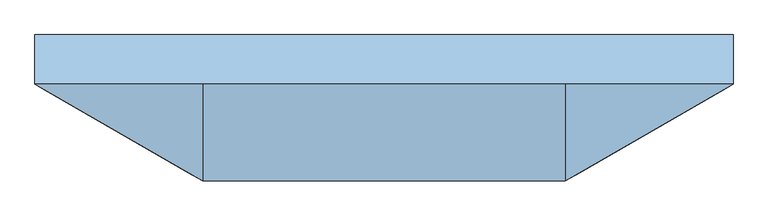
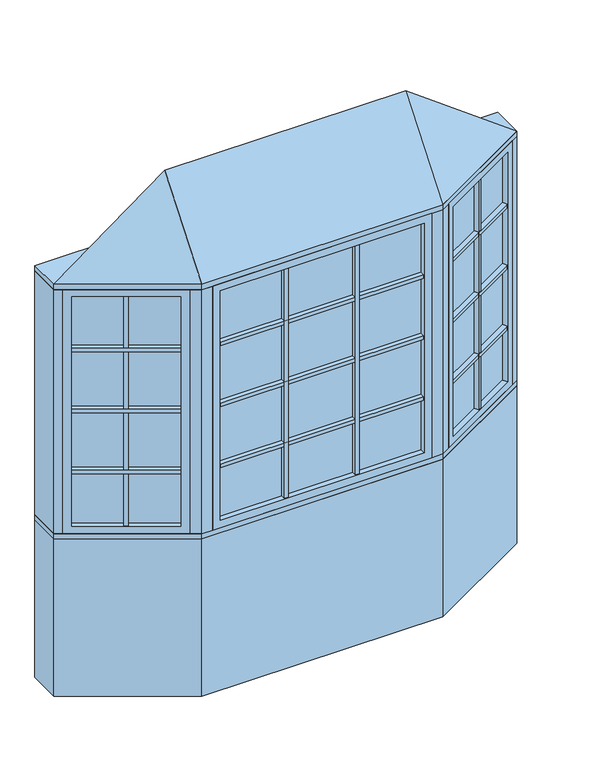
"""IFC4 building model written with IfcOpenShell, lengths in millimetres: window geometry, Pollard_Windows_Tudor Casement Bows and Bays : AML-BAY 30 AFR0612-10-500_GC."""

from ifc_helpers import new_model, si_unit, frame, origin, origin_with_axes, place, context, project, spatial, polyline, outline, extrude, faceted_brep, source, transform, mapped, element, save


def window_10dcae05(model_context):
    return source(origin(), model_context, "Body", "SolidModel", [
        extrude(outline(polyline([(632.2305346, -327.3537343), (621.2305346, -308.3011754), (1002.1135794, -88.3982469), (1013.1135794, -107.4508058), (632.2305346, -327.3537343)])), frame((0.0, 0.0, 1390.998), z_axis=(0.0, 0.0, 1.0), x_axis=(1.0, 0.0, 0.0)), (0.0, 0.0, 1.0), 18.0),
        extrude(outline(polyline([(618.6905346, -303.9017664), (607.6905346, -284.8492075), (988.5735794, -64.946279), (999.5735794, -83.9988379), (618.6905346, -303.9017664)])), frame((0.0, 0.0, 1390.998), z_axis=(0.0, 0.0, 1.0), x_axis=(1.0, 0.0, 0.0)), (0.0, 0.0, 1.0), 18.0),
        extrude(outline(polyline([(632.2305346, -327.3537343), (621.2305346, -308.3011754), (1002.1135794, -88.3982469), (1013.1135794, -107.4508058), (632.2305346, -327.3537343)])), frame((0.0, 0.0, 1090.998), z_axis=(0.0, 0.0, 1.0), x_axis=(1.0, 0.0, 0.0)), (0.0, 0.0, 1.0), 18.0),
        extrude(outline(polyline([(618.6905346, -303.9017664), (607.6905346, -284.8492075), (988.5735794, -64.946279), (999.5735794, -83.9988379), (618.6905346, -303.9017664)])), frame((0.0, 0.0, 1090.998), z_axis=(0.0, 0.0, 1.0), x_axis=(1.0, 0.0, 0.0)), (0.0, 0.0, 1.0), 18.0),
        extrude(outline(polyline([(632.2305346, -327.3537343), (621.2305346, -308.3011754), (1002.1135794, -88.3982469), (1013.1135794, -107.4508058), (632.2305346, -327.3537343)])), frame((0.0, 0.0, 1390.998), z_axis=(0.0, 0.0, 1.0), x_axis=(1.0, 0.0, 0.0)), (0.0, 0.0, 1.0), 18.0),
        extrude(outline(polyline([(618.6905346, -303.9017664), (607.6905346, -284.8492075), (988.5735794, -64.946279), (999.5735794, -83.9988379), (618.6905346, -303.9017664)])), frame((0.0, 0.0, 1390.998), z_axis=(0.0, 0.0, 1.0), x_axis=(1.0, 0.0, 0.0)), (0.0, 0.0, 1.0), 18.0),
        extrude(outline(polyline([(632.2305346, -327.3537343), (621.2305346, -308.3011754), (1002.1135794, -88.3982469), (1013.1135794, -107.4508058), (632.2305346, -327.3537343)])), frame((0.0, 0.0, 1390.998), z_axis=(0.0, 0.0, 1.0), x_axis=(1.0, 0.0, 0.0)), (0.0, 0.0, 1.0), 18.0),
        extrude(outline(polyline([(618.6905346, -303.9017664), (607.6905346, -284.8492075), (988.5735794, -64.946279), (999.5735794, -83.9988379), (618.6905346, -303.9017664)])), frame((0.0, 0.0, 1390.998), z_axis=(0.0, 0.0, 1.0), x_axis=(1.0, 0.0, 0.0)), (0.0, 0.0, 1.0), 18.0),
        extrude(outline(polyline([(632.2305346, -327.3537343), (621.2305346, -308.3011754), (1002.1135794, -88.3982469), (1013.1135794, -107.4508058), (632.2305346, -327.3537343)])), frame((0.0, 0.0, 1690.998), z_axis=(0.0, 0.0, 1.0), x_axis=(1.0, 0.0, 0.0)), (0.0, 0.0, 1.0), 18.0),
        extrude(outline(polyline([(618.6905346, -303.9017664), (607.6905346, -284.8492075), (988.5735794, -64.946279), (999.5735794, -83.9988379), (618.6905346, -303.9017664)])), frame((0.0, 0.0, 1690.998), z_axis=(0.0, 0.0, 1.0), x_axis=(1.0, 0.0, 0.0)), (0.0, 0.0, 1.0), 18.0),
        extrude(outline(polyline([(819.4662856, -193.8497112), (830.4662856, -212.9022701), (814.8778284, -221.9022701), (803.8778284, -202.8497112), (819.4662856, -193.8497112)])), frame((0.0, 0.0, 835.8628), z_axis=(0.0, 0.0, 1.0), x_axis=(1.0, 0.0, 0.0)), (0.0, 0.0, 1.0), 1128.2704),
        extrude(outline(polyline([(816.9262856, -189.4503021), (801.3378284, -198.4503021), (790.3378284, -179.3977432), (805.9262856, -170.3977432), (816.9262856, -189.4503021)])), frame((0.0, 0.0, 835.8628), z_axis=(0.0, 0.0, 1.0), x_axis=(1.0, 0.0, 0.0)), (0.0, 0.0, 1.0), 1128.2704),
        extrude(outline(polyline([(1013.112102, -82.0482469), (610.2320119, -314.6511754), (607.6920119, -310.2517664), (1010.572102, -77.6488379), (1013.112102, -82.0482469)])), frame((0.0, 0.0, 823.1628), z_axis=(0.0, 0.0, 1.0), x_axis=(1.0, 0.0, 0.0)), (0.0, 0.0, 1.0), 1153.6704),
        faceted_brep([(1002.1135794, -88.3982469, 835.8628), (1014.8135794, -110.3952922, 835.8628), (1014.8135794, -110.3952922, 1964.1332), (1002.1135794, -88.3982469, 1964.1332), (1010.572102, -77.6488379, 823.1628), (1013.112102, -82.0482469, 823.1628), (1013.112102, -82.0482469, 1976.8332), (1010.572102, -77.6488379, 1976.8332), (986.8735794, -62.0017926, 835.8628), (999.5735794, -83.9988379, 835.8628), (999.5735794, -83.9988379, 1964.1332), (986.8735794, -62.0017926, 1964.1332), (1045.8734073, -92.4628922, 799.998), (1017.9334073, -44.0693926, 799.998), (1017.9334073, -44.0693926, 1999.998), (1045.8734073, -92.4628922, 1999.998), (633.9305346, -330.2982207, 1964.1332), (621.2305346, -308.3011754, 1964.1332), (610.2320119, -314.6511754, 1976.8332), (607.6920119, -310.2517664, 1976.8332), (618.6905346, -303.9017664, 1964.1332), (605.9905346, -281.9047211, 1964.1332), (574.9307067, -299.8371211, 1999.998), (602.8707067, -348.2306207, 1999.998), (633.9305346, -330.2982207, 835.8628), (621.2305346, -308.3011754, 835.8628), (610.2320119, -314.6511754, 823.1628), (607.6920119, -310.2517664, 823.1628), (618.6905346, -303.9017664, 835.8628), (605.9905346, -281.9047211, 835.8628), (574.9307067, -299.8371211, 799.998), (602.8707067, -348.2306207, 799.998)], [[[0, 1, 2, 3]], [[4, 5, 6, 7]], [[8, 9, 10, 11]], [[12, 13, 14, 15]], [[3, 2, 16, 17]], [[7, 6, 18, 19]], [[11, 10, 20, 21]], [[15, 14, 22, 23]], [[17, 16, 24, 25]], [[19, 18, 26, 27]], [[21, 20, 28, 29]], [[23, 22, 30, 31]], [[25, 24, 1, 0]], [[5, 26, 18, 6], [3, 17, 25, 0]], [[27, 26, 5, 4]], [[7, 19, 27, 4], [9, 28, 20, 10]], [[29, 28, 9, 8]], [[13, 30, 22, 14], [11, 21, 29, 8]], [[31, 30, 13, 12]], [[15, 23, 31, 12], [1, 24, 16, 2]]]),
        extrude(outline(polyline([(174.1350122, -347.8306207), (174.1350122, -369.8306207), (156.1350122, -369.8306207), (156.1350122, -347.8306207), (174.1350122, -347.8306207)])), frame((0.0, 0.0, 835.8628), z_axis=(0.0, 0.0, 1.0), x_axis=(1.0, 0.0, 0.0)), (0.0, 0.0, 1.0), 1128.2704),
        extrude(outline(polyline([(174.1350122, -342.7506207), (156.1350122, -342.7506207), (156.1350122, -320.7506207), (174.1350122, -320.7506207), (174.1350122, -342.7506207)])), frame((0.0, 0.0, 835.8628), z_axis=(0.0, 0.0, 1.0), x_axis=(1.0, 0.0, 0.0)), (0.0, 0.0, 1.0), 1128.2704),
        extrude(outline(polyline([(-156.1350122, -347.8306207), (-156.1350122, -369.8306207), (-174.1350122, -369.8306207), (-174.1350122, -347.8306207), (-156.1350122, -347.8306207)])), frame((0.0, 0.0, 835.8628), z_axis=(0.0, 0.0, 1.0), x_axis=(1.0, 0.0, 0.0)), (0.0, 0.0, 1.0), 1128.2704),
        extrude(outline(polyline([(-156.1350122, -342.7506207), (-174.1350122, -342.7506207), (-174.1350122, -320.7506207), (-156.1350122, -320.7506207), (-156.1350122, -342.7506207)])), frame((0.0, 0.0, 835.8628), z_axis=(0.0, 0.0, 1.0), x_axis=(1.0, 0.0, 0.0)), (0.0, 0.0, 1.0), 1128.2704),
        extrude(outline(polyline([(-473.7046365, -369.8306207), (-473.7046365, -347.8306207), (473.7046365, -347.8306207), (473.7046365, -369.8306207), (-473.7046365, -369.8306207)])), frame((0.0, 0.0, 1090.998), z_axis=(0.0, 0.0, 1.0), x_axis=(1.0, 0.0, 0.0)), (0.0, 0.0, 1.0), 18.0),
        extrude(outline(polyline([(-473.7046365, -342.7506207), (-473.7046365, -320.7506207), (473.7046365, -320.7506207), (473.7046365, -342.7506207), (-473.7046365, -342.7506207)])), frame((0.0, 0.0, 1090.998), z_axis=(0.0, 0.0, 1.0), x_axis=(1.0, 0.0, 0.0)), (0.0, 0.0, 1.0), 18.0),
        extrude(outline(polyline([(-473.7046365, -369.8306207), (-473.7046365, -347.8306207), (473.7046365, -347.8306207), (473.7046365, -369.8306207), (-473.7046365, -369.8306207)])), frame((0.0, 0.0, 1390.998), z_axis=(0.0, 0.0, 1.0), x_axis=(1.0, 0.0, 0.0)), (0.0, 0.0, 1.0), 18.0),
        extrude(outline(polyline([(-473.7046365, -342.7506207), (-473.7046365, -320.7506207), (473.7046365, -320.7506207), (473.7046365, -342.7506207), (-473.7046365, -342.7506207)])), frame((0.0, 0.0, 1390.998), z_axis=(0.0, 0.0, 1.0), x_axis=(1.0, 0.0, 0.0)), (0.0, 0.0, 1.0), 18.0),
        extrude(outline(polyline([(-473.7046365, -369.8306207), (-473.7046365, -347.8306207), (473.7046365, -347.8306207), (473.7046365, -369.8306207), (-473.7046365, -369.8306207)])), frame((0.0, 0.0, 1390.998), z_axis=(0.0, 0.0, 1.0), x_axis=(1.0, 0.0, 0.0)), (0.0, 0.0, 1.0), 18.0),
        extrude(outline(polyline([(-473.7046365, -342.7506207), (-473.7046365, -320.7506207), (473.7046365, -320.7506207), (473.7046365, -342.7506207), (-473.7046365, -342.7506207)])), frame((0.0, 0.0, 1390.998), z_axis=(0.0, 0.0, 1.0), x_axis=(1.0, 0.0, 0.0)), (0.0, 0.0, 1.0), 18.0),
        extrude(outline(polyline([(-473.7046365, -369.8306207), (-473.7046365, -347.8306207), (473.7046365, -347.8306207), (473.7046365, -369.8306207), (-473.7046365, -369.8306207)])), frame((0.0, 0.0, 1390.998), z_axis=(0.0, 0.0, 1.0), x_axis=(1.0, 0.0, 0.0)), (0.0, 0.0, 1.0), 18.0),
        extrude(outline(polyline([(-473.7046365, -342.7506207), (-473.7046365, -320.7506207), (473.7046365, -320.7506207), (473.7046365, -342.7506207), (-473.7046365, -342.7506207)])), frame((0.0, 0.0, 1390.998), z_axis=(0.0, 0.0, 1.0), x_axis=(1.0, 0.0, 0.0)), (0.0, 0.0, 1.0), 18.0),
        extrude(outline(polyline([(-1013.1135794, -107.4508058), (-1002.1135794, -88.3982469), (-621.2305346, -308.3011754), (-632.2305346, -327.3537343), (-1013.1135794, -107.4508058)])), frame((0.0, 0.0, 1090.998), z_axis=(0.0, 0.0, 1.0), x_axis=(1.0, 0.0, 0.0)), (0.0, 0.0, 1.0), 18.0),
        extrude(outline(polyline([(-999.5735794, -83.9988379), (-988.5735794, -64.946279), (-607.6905346, -284.8492075), (-618.6905346, -303.9017664), (-999.5735794, -83.9988379)])), frame((0.0, 0.0, 1090.998), z_axis=(0.0, 0.0, 1.0), x_axis=(1.0, 0.0, 0.0)), (0.0, 0.0, 1.0), 18.0),
        extrude(outline(polyline([(-1013.1135794, -107.4508058), (-1002.1135794, -88.3982469), (-621.2305346, -308.3011754), (-632.2305346, -327.3537343), (-1013.1135794, -107.4508058)])), frame((0.0, 0.0, 1390.998), z_axis=(0.0, 0.0, 1.0), x_axis=(1.0, 0.0, 0.0)), (0.0, 0.0, 1.0), 18.0),
        extrude(outline(polyline([(-999.5735794, -83.9988379), (-988.5735794, -64.946279), (-607.6905346, -284.8492075), (-618.6905346, -303.9017664), (-999.5735794, -83.9988379)])), frame((0.0, 0.0, 1390.998), z_axis=(0.0, 0.0, 1.0), x_axis=(1.0, 0.0, 0.0)), (0.0, 0.0, 1.0), 18.0),
        extrude(outline(polyline([(-1013.1135794, -107.4508058), (-1002.1135794, -88.3982469), (-621.2305346, -308.3011754), (-632.2305346, -327.3537343), (-1013.1135794, -107.4508058)])), frame((0.0, 0.0, 1390.998), z_axis=(0.0, 0.0, 1.0), x_axis=(1.0, 0.0, 0.0)), (0.0, 0.0, 1.0), 18.0),
        extrude(outline(polyline([(-999.5735794, -83.9988379), (-988.5735794, -64.946279), (-607.6905346, -284.8492075), (-618.6905346, -303.9017664), (-999.5735794, -83.9988379)])), frame((0.0, 0.0, 1390.998), z_axis=(0.0, 0.0, 1.0), x_axis=(1.0, 0.0, 0.0)), (0.0, 0.0, 1.0), 18.0),
        extrude(outline(polyline([(-1013.1135794, -107.4508058), (-1002.1135794, -88.3982469), (-621.2305346, -308.3011754), (-632.2305346, -327.3537343), (-1013.1135794, -107.4508058)])), frame((0.0, 0.0, 1390.998), z_axis=(0.0, 0.0, 1.0), x_axis=(1.0, 0.0, 0.0)), (0.0, 0.0, 1.0), 18.0),
        extrude(outline(polyline([(-999.5735794, -83.9988379), (-988.5735794, -64.946279), (-607.6905346, -284.8492075), (-618.6905346, -303.9017664), (-999.5735794, -83.9988379)])), frame((0.0, 0.0, 1390.998), z_axis=(0.0, 0.0, 1.0), x_axis=(1.0, 0.0, 0.0)), (0.0, 0.0, 1.0), 18.0),
        extrude(outline(polyline([(-1013.1135794, -107.4508058), (-1002.1135794, -88.3982469), (-621.2305346, -308.3011754), (-632.2305346, -327.3537343), (-1013.1135794, -107.4508058)])), frame((0.0, 0.0, 1690.998), z_axis=(0.0, 0.0, 1.0), x_axis=(1.0, 0.0, 0.0)), (0.0, 0.0, 1.0), 18.0),
        extrude(outline(polyline([(-999.5735794, -83.9988379), (-988.5735794, -64.946279), (-607.6905346, -284.8492075), (-618.6905346, -303.9017664), (-999.5735794, -83.9988379)])), frame((0.0, 0.0, 1690.998), z_axis=(0.0, 0.0, 1.0), x_axis=(1.0, 0.0, 0.0)), (0.0, 0.0, 1.0), 18.0),
        extrude(outline(polyline([(-473.7046365, -369.8306207), (-473.7046365, -347.8306207), (473.7046365, -347.8306207), (473.7046365, -369.8306207), (-473.7046365, -369.8306207)])), frame((0.0, 0.0, 1690.998), z_axis=(0.0, 0.0, 1.0), x_axis=(1.0, 0.0, 0.0)), (0.0, 0.0, 1.0), 18.0),
        extrude(outline(polyline([(-473.7046365, -342.7506207), (-473.7046365, -320.7506207), (473.7046365, -320.7506207), (473.7046365, -342.7506207), (-473.7046365, -342.7506207)])), frame((0.0, 0.0, 1690.998), z_axis=(0.0, 0.0, 1.0), x_axis=(1.0, 0.0, 0.0)), (0.0, 0.0, 1.0), 18.0),
        extrude(outline(polyline([(-803.8778284, -202.8497112), (-814.8778284, -221.9022701), (-830.4662856, -212.9022701), (-819.4662856, -193.8497112), (-803.8778284, -202.8497112)])), frame((0.0, 0.0, 835.8628), z_axis=(0.0, 0.0, 1.0), x_axis=(1.0, 0.0, 0.0)), (0.0, 0.0, 1.0), 1128.2704),
        extrude(outline(polyline([(-801.3378284, -198.4503021), (-816.9262856, -189.4503021), (-805.9262856, -170.3977432), (-790.3378284, -179.3977432), (-801.3378284, -198.4503021)])), frame((0.0, 0.0, 835.8628), z_axis=(0.0, 0.0, 1.0), x_axis=(1.0, 0.0, 0.0)), (0.0, 0.0, 1.0), 1128.2704),
        extrude(outline(polyline([(-610.2320119, -314.6511754), (-1013.112102, -82.0482469), (-1010.572102, -77.6488379), (-607.6920119, -310.2517664), (-610.2320119, -314.6511754)])), frame((0.0, 0.0, 823.1628), z_axis=(0.0, 0.0, 1.0), x_axis=(1.0, 0.0, 0.0)), (0.0, 0.0, 1.0), 1153.6704),
        faceted_brep([(-618.6905346, -303.9017664, 1964.1332), (-605.9905346, -281.9047211, 1964.1332), (-605.9905346, -281.9047211, 835.8628), (-618.6905346, -303.9017664, 835.8628), (-610.2320119, -314.6511754, 1976.8332), (-607.6920119, -310.2517664, 1976.8332), (-607.6920119, -310.2517664, 823.1628), (-610.2320119, -314.6511754, 823.1628), (-633.9305346, -330.2982207, 1964.1332), (-621.2305346, -308.3011754, 1964.1332), (-621.2305346, -308.3011754, 835.8628), (-633.9305346, -330.2982207, 835.8628), (-574.9307067, -299.8371211, 1999.998), (-602.8707067, -348.2306207, 1999.998), (-602.8707067, -348.2306207, 799.998), (-574.9307067, -299.8371211, 799.998), (-986.8735794, -62.0017926, 835.8628), (-999.5735794, -83.9988379, 835.8628), (-1010.572102, -77.6488379, 823.1628), (-1013.112102, -82.0482469, 823.1628), (-1002.1135794, -88.3982469, 835.8628), (-1014.8135794, -110.3952922, 835.8628), (-1045.8734073, -92.4628922, 799.998), (-1017.9334073, -44.0693926, 799.998), (-986.8735794, -62.0017926, 1964.1332), (-999.5735794, -83.9988379, 1964.1332), (-1010.572102, -77.6488379, 1976.8332), (-1013.112102, -82.0482469, 1976.8332), (-1002.1135794, -88.3982469, 1964.1332), (-1014.8135794, -110.3952922, 1964.1332), (-1045.8734073, -92.4628922, 1999.998), (-1017.9334073, -44.0693926, 1999.998)], [[[0, 1, 2, 3]], [[4, 5, 6, 7]], [[8, 9, 10, 11]], [[12, 13, 14, 15]], [[3, 2, 16, 17]], [[7, 6, 18, 19]], [[11, 10, 20, 21]], [[15, 14, 22, 23]], [[17, 16, 24, 25]], [[19, 18, 26, 27]], [[21, 20, 28, 29]], [[23, 22, 30, 31]], [[15, 23, 31, 12], [1, 24, 16, 2]], [[25, 24, 1, 0]], [[5, 26, 18, 6], [3, 17, 25, 0]], [[27, 26, 5, 4]], [[7, 19, 27, 4], [9, 28, 20, 10]], [[29, 28, 9, 8]], [[13, 30, 22, 14], [11, 21, 29, 8]], [[31, 30, 13, 12]]]),
        extrude(outline(polyline([(486.4046365, -347.8306207), (-486.4046365, -347.8306207), (-486.4046365, -342.7506207), (486.4046365, -342.7506207), (486.4046365, -347.8306207)])), frame((0.0, 0.0, 823.1628), z_axis=(0.0, 0.0, 1.0), x_axis=(1.0, 0.0, 0.0)), (0.0, 0.0, 1.0), 1153.6704),
        faceted_brep([(473.7046365, -347.8306207, 835.8628), (473.7046365, -373.2306207, 835.8628), (473.7046365, -373.2306207, 1964.1332), (473.7046365, -347.8306207, 1964.1332), (486.4046365, -342.7506207, 823.1628), (486.4046365, -347.8306207, 823.1628), (486.4046365, -347.8306207, 1976.8332), (486.4046365, -342.7506207, 1976.8332), (473.7046365, -317.3506207, 835.8628), (473.7046365, -342.7506207, 835.8628), (473.7046365, -342.7506207, 1964.1332), (473.7046365, -317.3506207, 1964.1332), (509.5694365, -373.2306207, 799.998), (509.5694365, -317.3506207, 799.998), (509.5694365, -317.3506207, 1999.998), (509.5694365, -373.2306207, 1999.998), (-473.7046365, -373.2306207, 1964.1332), (-473.7046365, -347.8306207, 1964.1332), (-486.4046365, -347.8306207, 1976.8332), (-486.4046365, -342.7506207, 1976.8332), (-473.7046365, -342.7506207, 1964.1332), (-473.7046365, -317.3506207, 1964.1332), (-509.5694365, -317.3506207, 1999.998), (-509.5694365, -373.2306207, 1999.998), (-473.7046365, -373.2306207, 835.8628), (-473.7046365, -347.8306207, 835.8628), (-486.4046365, -347.8306207, 823.1628), (-486.4046365, -342.7506207, 823.1628), (-473.7046365, -342.7506207, 835.8628), (-473.7046365, -317.3506207, 835.8628), (-509.5694365, -317.3506207, 799.998), (-509.5694365, -373.2306207, 799.998)], [[[0, 1, 2, 3]], [[4, 5, 6, 7]], [[8, 9, 10, 11]], [[12, 13, 14, 15]], [[3, 2, 16, 17]], [[7, 6, 18, 19]], [[11, 10, 20, 21]], [[15, 14, 22, 23]], [[17, 16, 24, 25]], [[19, 18, 26, 27]], [[21, 20, 28, 29]], [[23, 22, 30, 31]], [[15, 23, 31, 12], [1, 24, 16, 2]], [[25, 24, 1, 0]], [[5, 26, 18, 6], [3, 17, 25, 0]], [[27, 26, 5, 4]], [[7, 19, 27, 4], [9, 28, 20, 10]], [[29, 28, 9, 8]], [[13, 30, 22, 14], [11, 21, 29, 8]], [[31, 30, 13, 12]]]),
        faceted_brep([(1076.5, -74.7806207, 2025.398), (559.5694365, -373.2306207, 2025.398), (-559.5694365, -373.2306207, 2025.398), (-1076.5, -74.7806207, 2025.398), (-559.5694365, -74.7806207, 2406.398), (559.5694365, -74.7806207, 2406.398)], [[[0, 1, 2, 3]], [[3, 2, 4]], [[2, 1, 5, 4]], [[1, 0, 5]], [[0, 3, 4, 5]]]),
        extrude(outline(polyline([(-1076.5, 77.6193793), (1076.5, 77.6193793), (1076.5, -74.7806207), (559.5694365, -373.2306207), (-559.5694365, -373.2306207), (-1076.5, -74.7806207), (-1076.5, 77.6193793)])), frame((0.0, 0.0, 1999.998), z_axis=(0.0, 0.0, 1.0), x_axis=(1.0, 0.0, 0.0)), (0.0, 0.0, 1.0), 25.4),
        extrude(outline(polyline([(-1076.5, -74.7806207), (-1076.5, 77.6193793), (-1035.6645431, 77.6193793), (-1035.6645431, -74.7806207), (-1045.8734073, -92.4628922), (-1076.5, -74.7806207)])), frame((0.0, 0.0, 799.998), z_axis=(0.0, 0.0, 1.0), x_axis=(1.0, 0.0, 0.0)), (0.0, 0.0, 1.0), 1200.0),
        extrude(outline(polyline([(1076.5, 77.6193793), (1076.5, -74.7806207), (1045.8734073, -92.4628922), (1035.6645431, -74.7806207), (1035.6645431, 77.6193793), (1076.5, 77.6193793)])), frame((0.0, 0.0, 799.998), z_axis=(0.0, 0.0, 1.0), x_axis=(1.0, 0.0, 0.0)), (0.0, 0.0, 1.0), 1200.0),
        extrude(outline(polyline([(559.5694365, -373.2306207), (509.5694365, -373.2306207), (509.5694365, -323.2306207), (546.1719769, -323.2306207), (577.8707067, -304.9293505), (602.8707067, -348.2306207), (559.5694365, -373.2306207)])), frame((0.0, 0.0, 799.998), z_axis=(0.0, 0.0, 1.0), x_axis=(1.0, 0.0, 0.0)), (0.0, 0.0, 1.0), 1200.0),
        extrude(outline(polyline([(-559.5694365, -373.2306207), (-602.8707067, -348.2306207), (-577.8707067, -304.9293505), (-546.1719769, -323.2306207), (-509.5694365, -323.2306207), (-509.5694365, -373.2306207), (-559.5694365, -373.2306207)])), frame((0.0, 0.0, 799.998), z_axis=(0.0, 0.0, 1.0), x_axis=(1.0, 0.0, 0.0)), (0.0, 0.0, 1.0), 1200.0),
        extrude(outline(polyline([(-559.5694365, -373.2306207), (-1076.5, -74.7806207), (-1076.5, 77.6193793), (-1035.6645431, 77.6193793), (-518.7339796, -220.8306207), (518.7339796, -220.8306207), (1035.6645431, 77.6193793), (1076.5, 77.6193793), (1076.5, -74.7806207), (559.5694365, -373.2306207), (-559.5694365, -373.2306207)])), frame((0.0, 0.0, 774.598), z_axis=(0.0, 0.0, 1.0), x_axis=(1.0, 0.0, 0.0)), (0.0, 0.0, 1.0), 25.4),
        extrude(outline(polyline([(-1076.5, -74.7806207), (-1076.5, 77.6193793), (-1035.6645431, 77.6193793), (-518.7339796, -220.8306207), (518.7339796, -220.8306207), (1035.6645431, 77.6193793), (1076.5, 77.6193793), (1076.5, -74.7806207), (559.5694365, -373.2306207), (-559.5694365, -373.2306207), (-1076.5, -74.7806207)])), origin_with_axes(), (0.0, 0.0, 1.0), 774.598),
    ])


if __name__ == "__main__":
    model = new_model("IFC4")
    model_context = context("Model", 3, world=origin())
    ifc_project = project(units=[si_unit("LENGTHUNIT", "METRE", prefix="MILLI")], contexts=[model_context])
    site = spatial("IfcSite", under=ifc_project)
    building = spatial("IfcBuilding", under=site)
    placement = place(None, origin())
    window_shape = window_10dcae05(model_context)
    element("IfcWindow", 1, ObjectType="Pollard_Windows_Tudor Casement Bows and Bays : AML-BAY 30 AFR0612-10-500_GC", at=placement, inside=building, context=model_context, shape_type="MappedRepresentation", body=[
        mapped(window_shape, transform((0.0, 0.0, 0.0), x_axis=(1.0, 0.0, 0.0), y_axis=(0.0, 1.0, 0.0), z_axis=(0.0, 0.0, 1.0))),
    ])
    save(model, "model.ifc")
